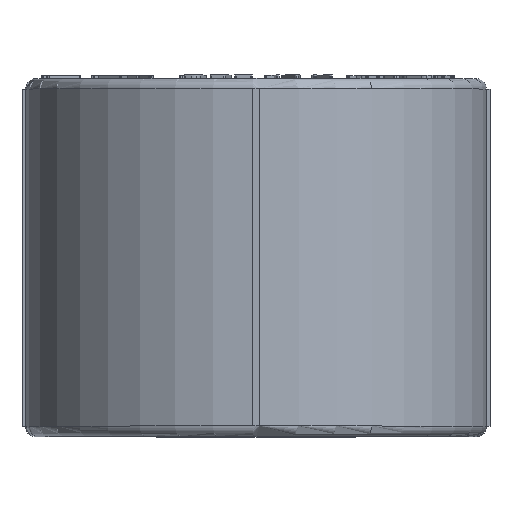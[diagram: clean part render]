
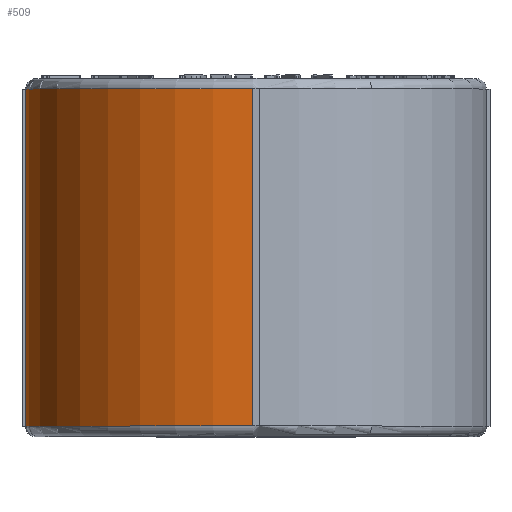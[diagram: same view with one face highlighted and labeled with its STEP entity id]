
A CAD part, top view. The second image highlights one B-rep face of the part: STEP entity #509.
In plain terms, the highlighted cylindrical face has radius 33.5 mm (diameter 67 mm), a partial arc.
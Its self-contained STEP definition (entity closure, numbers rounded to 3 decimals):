
#509=ADVANCED_FACE('',(#3567),#3569,.T.);
#3567=FACE_BOUND('',#3568,.T.);
#3568=EDGE_LOOP('',(#7477,#7478,#7479,#7480));
#3569=CYLINDRICAL_SURFACE('',#3570,33.5);
#3570=AXIS2_PLACEMENT_3D('',#3571,#3572,#3573);
#3571=CARTESIAN_POINT('',(0.,-26.,0.));
#3572=DIRECTION('',(0.,1.,0.));
#3573=DIRECTION('',(-1.,0.,0.));
#7477=ORIENTED_EDGE('',*,*,#9655,.F.);
#7478=ORIENTED_EDGE('',*,*,#9656,.T.);
#7479=ORIENTED_EDGE('',*,*,#9657,.F.);
#7480=ORIENTED_EDGE('',*,*,#8935,.F.);
#8935=EDGE_CURVE('',#11020,#11022,#11023,.T.);
#9655=EDGE_CURVE('',#12103,#11020,#12104,.T.);
#9656=EDGE_CURVE('',#12103,#12105,#12106,.T.);
#9657=EDGE_CURVE('',#11022,#12105,#12107,.F.);
#11020=VERTEX_POINT('',#14857);
#11022=VERTEX_POINT('',#14862);
#11023=CIRCLE('',#14863,33.5);
#12103=VERTEX_POINT('',#17387);
#12104=LINE('',#17388,#17389);
#12105=VERTEX_POINT('',#17391);
#12106=CIRCLE('',#17392,33.5);
#12107=LINE('',#17396,#17397);
#14857=CARTESIAN_POINT('',(-33.496,24.5,0.5));
#14862=CARTESIAN_POINT('',(-0.5,24.5,33.496));
#14863=AXIS2_PLACEMENT_3D('',#14864,#14865,#14866);
#14864=CARTESIAN_POINT('',(0.,24.5,0.));
#14865=DIRECTION('',(0.,1.,0.));
#14866=DIRECTION('',(-1.,0.,0.015));
#17387=CARTESIAN_POINT('',(-33.496,-24.5,0.5));
#17388=CARTESIAN_POINT('',(-33.496,-24.5,0.5));
#17389=VECTOR('',#17390,1.);
#17390=DIRECTION('',(0.,1.,0.));
#17391=CARTESIAN_POINT('',(-0.5,-24.5,33.496));
#17392=AXIS2_PLACEMENT_3D('',#17393,#17394,#17395);
#17393=CARTESIAN_POINT('',(0.,-24.5,0.));
#17394=DIRECTION('',(0.,1.,0.));
#17395=DIRECTION('',(-1.,0.,0.015));
#17396=CARTESIAN_POINT('',(-0.5,-24.5,33.496));
#17397=VECTOR('',#17398,1.);
#17398=DIRECTION('',(0.,1.,0.));
